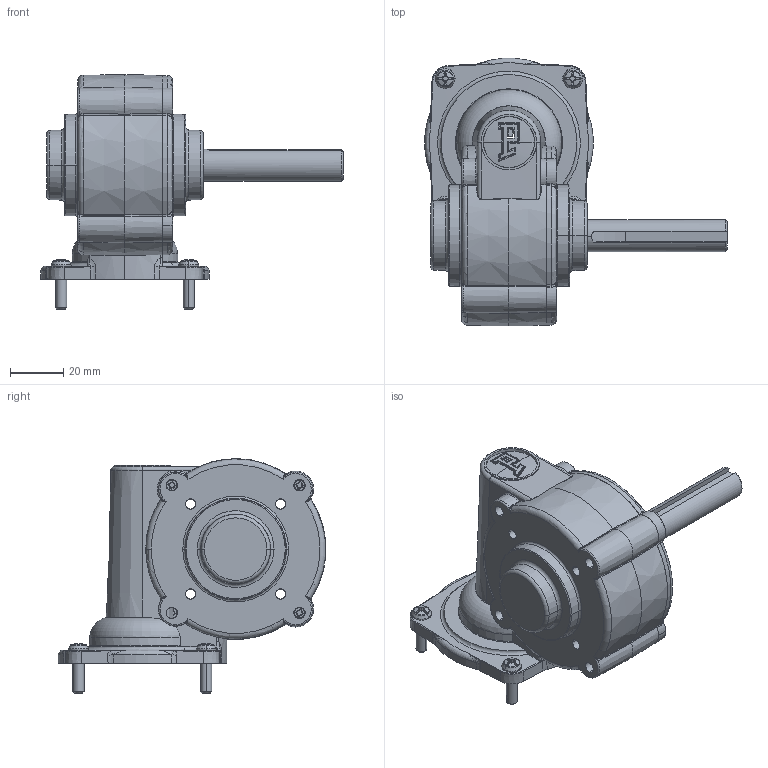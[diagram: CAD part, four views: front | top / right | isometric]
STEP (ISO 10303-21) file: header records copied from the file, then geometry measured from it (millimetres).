
FILE_DESCRIPTION (( 'STEP AP214' ), '1' );
FILE_NAME ('MBox.STEP', '2021-05-19T07:35:01', ( '' ), ( '' ), 'SwSTEP 2.0', 'SolidWorks 2020', '' );
FILE_SCHEMA (( 'AUTOMOTIVE_DESIGN' ));
Length unit declared in the file: millimetre
Products named in the file (1): MBox
Bounding box: 113.14 x 100.13 x 87.8 mm (x, y, z)
Surface area: 38861 mm2 (no closed solid volume)
Topology: 0 solids, 19 shells, 806 faces, 2259 edges, 1405 vertices
Faces by surface type: cone 229, bspline 187, plane 166, cylinder 113, torus 95, sphere 16
Entity records: 53110 total; most frequent: CARTESIAN_POINT 25561, ORIENTED_EDGE 4149, DIRECTION 3397, EDGE_CURVE 2222, AXIS2_PLACEMENT_3D 1449, VERTEX_POINT 1403, B_SPLINE_CURVE_WITH_KNOTS 877, EDGE_LOOP 851
